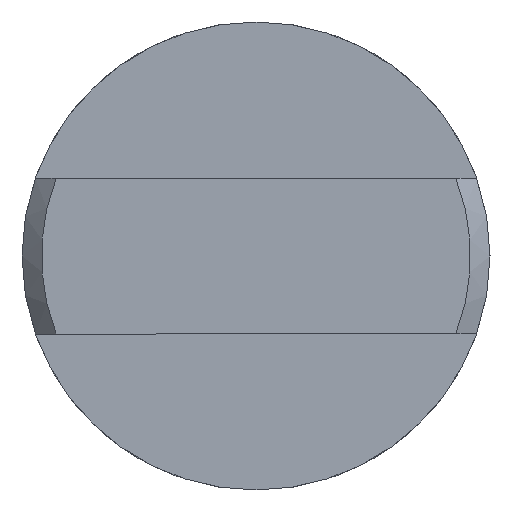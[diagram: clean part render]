
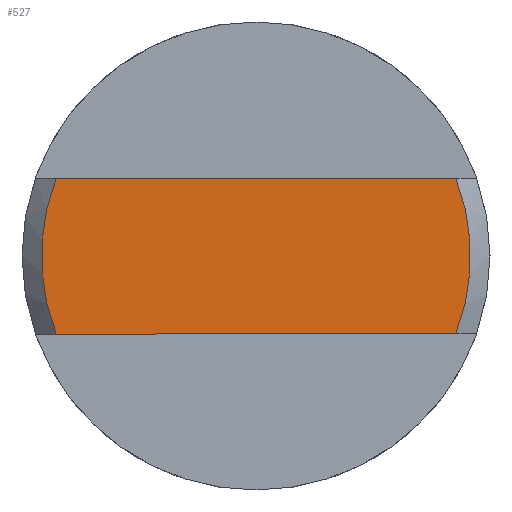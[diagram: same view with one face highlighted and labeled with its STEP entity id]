
A CAD part, left-side view. The second image highlights one B-rep face of the part: STEP entity #527.
In plain terms, the highlighted planar face has unit normal (-1, 0, 0).
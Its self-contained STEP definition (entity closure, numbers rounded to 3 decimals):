
#20 = DIRECTION ( 'NONE',  ( 0., 1., 0. ) ) ;
#23 = EDGE_CURVE ( 'NONE', #790, #104, #778, .T. ) ;
#24 = CARTESIAN_POINT ( 'NONE',  ( -17.25, 0., -2. ) ) ;
#57 = DIRECTION ( 'NONE',  ( 0., 0., -1. ) ) ;
#66 = FACE_OUTER_BOUND ( 'NONE', #471, .T. ) ;
#83 = DIRECTION ( 'NONE',  ( -1., 0., 0. ) ) ;
#90 = ORIENTED_EDGE ( 'NONE', *, *, #275, .F. ) ;
#97 = CARTESIAN_POINT ( 'NONE',  ( -17.25, 0., 2. ) ) ;
#104 = VERTEX_POINT ( 'NONE', #529 ) ;
#122 = VECTOR ( 'NONE', #373, 1000. ) ;
#148 = AXIS2_PLACEMENT_3D ( 'NONE', #743, #816, #57 ) ;
#153 = EDGE_CURVE ( 'NONE', #790, #858, #395, .T. ) ;
#194 = AXIS2_PLACEMENT_3D ( 'NONE', #764, #618, #354 ) ;
#200 = CARTESIAN_POINT ( 'NONE',  ( -17.25, 5.123, -2. ) ) ;
#221 = LINE ( 'NONE', #24, #477 ) ;
#235 = CARTESIAN_POINT ( 'NONE',  ( -17.25, 0., 0. ) ) ;
#275 = EDGE_CURVE ( 'NONE', #437, #858, #221, .T. ) ;
#281 = CIRCLE ( 'NONE', #148, 5.5 ) ;
#300 = DIRECTION ( 'NONE',  ( 0., 0., -1. ) ) ;
#315 = ORIENTED_EDGE ( 'NONE', *, *, #153, .T. ) ;
#346 = PLANE ( 'NONE',  #194 ) ;
#354 = DIRECTION ( 'NONE',  ( 0., 0., -1. ) ) ;
#373 = DIRECTION ( 'NONE',  ( 0., -1., 0. ) ) ;
#395 = CIRCLE ( 'NONE', #636, 5.5 ) ;
#400 = CARTESIAN_POINT ( 'NONE',  ( -17.25, 5.123, 2. ) ) ;
#437 = VERTEX_POINT ( 'NONE', #784 ) ;
#471 = EDGE_LOOP ( 'NONE', ( #705, #315, #90, #652 ) ) ;
#477 = VECTOR ( 'NONE', #20, 1000. ) ;
#527 = ADVANCED_FACE ( 'NONE', ( #66 ), #346, .F. ) ;
#529 = CARTESIAN_POINT ( 'NONE',  ( -17.25, -5.123, 2. ) ) ;
#618 = DIRECTION ( 'NONE',  ( 1., 0., 0. ) ) ;
#636 = AXIS2_PLACEMENT_3D ( 'NONE', #235, #83, #300 ) ;
#652 = ORIENTED_EDGE ( 'NONE', *, *, #751, .T. ) ;
#705 = ORIENTED_EDGE ( 'NONE', *, *, #23, .F. ) ;
#743 = CARTESIAN_POINT ( 'NONE',  ( -17.25, 0., 0. ) ) ;
#751 = EDGE_CURVE ( 'NONE', #437, #104, #281, .T. ) ;
#764 = CARTESIAN_POINT ( 'NONE',  ( -17.25, 0., 0. ) ) ;
#778 = LINE ( 'NONE', #97, #122 ) ;
#784 = CARTESIAN_POINT ( 'NONE',  ( -17.25, -5.123, -2. ) ) ;
#790 = VERTEX_POINT ( 'NONE', #400 ) ;
#816 = DIRECTION ( 'NONE',  ( -1., 0., 0. ) ) ;
#858 = VERTEX_POINT ( 'NONE', #200 ) ;
